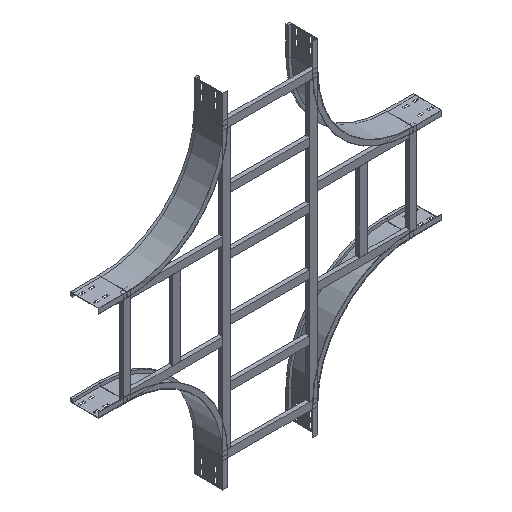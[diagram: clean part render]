
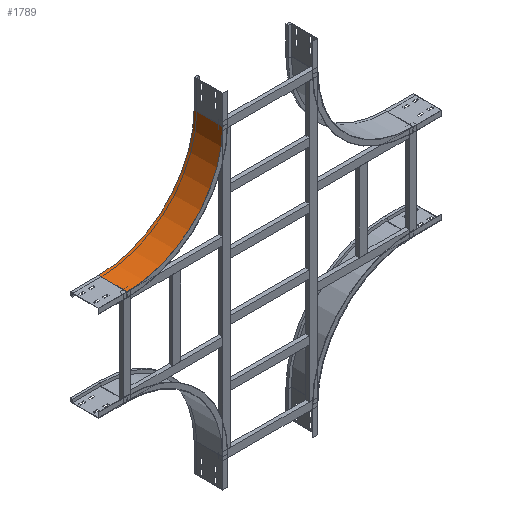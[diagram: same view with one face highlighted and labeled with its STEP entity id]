
A CAD part, isometric view. The second image highlights one B-rep face of the part: STEP entity #1789.
In plain terms, the highlighted cylindrical face has radius 500 mm (diameter 1000 mm), a partial arc.
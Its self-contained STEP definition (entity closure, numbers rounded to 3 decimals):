
#258 = CYLINDRICAL_SURFACE ( 'NONE', #1915, 500. ) ;
#288 = VECTOR ( 'NONE', #1224, 1000. ) ;
#307 = CARTESIAN_POINT ( 'NONE',  ( 500., 0., -650. ) ) ;
#331 = EDGE_CURVE ( 'NONE', #2090, #1062, #626, .T. ) ;
#449 = ORIENTED_EDGE ( 'NONE', *, *, #331, .F. ) ;
#580 = DIRECTION ( 'NONE',  ( -1., 0., 0. ) ) ;
#626 = CIRCLE ( 'NONE', #2748, 500. ) ;
#686 = EDGE_CURVE ( 'NONE', #1304, #1062, #2347, .T. ) ;
#779 = VERTEX_POINT ( 'NONE', #2879 ) ;
#795 = DIRECTION ( 'NONE',  ( -1., 0., 0. ) ) ;
#1062 = VERTEX_POINT ( 'NONE', #2357 ) ;
#1098 = CARTESIAN_POINT ( 'NONE',  ( 0., 150., -150. ) ) ;
#1224 = DIRECTION ( 'NONE',  ( 0., 1., 0. ) ) ;
#1269 = DIRECTION ( 'NONE',  ( 0., -1., 0. ) ) ;
#1279 = EDGE_CURVE ( 'NONE', #779, #2090, #2192, .T. ) ;
#1281 = ORIENTED_EDGE ( 'NONE', *, *, #1279, .F. ) ;
#1304 = VERTEX_POINT ( 'NONE', #1997 ) ;
#1391 = CARTESIAN_POINT ( 'NONE',  ( 500., 0., -150. ) ) ;
#1520 = DIRECTION ( 'NONE',  ( 0., -1., 0. ) ) ;
#1572 = DIRECTION ( 'NONE',  ( 0., -1., 0. ) ) ;
#1596 = ORIENTED_EDGE ( 'NONE', *, *, #686, .T. ) ;
#1636 = AXIS2_PLACEMENT_3D ( 'NONE', #2818, #1269, #795 ) ;
#1789 = ADVANCED_FACE ( 'NONE', ( #2684 ), #258, .F. ) ;
#1792 = DIRECTION ( 'NONE',  ( 0., 1., 0. ) ) ;
#1915 = AXIS2_PLACEMENT_3D ( 'NONE', #1391, #1572, #2474 ) ;
#1959 = CARTESIAN_POINT ( 'NONE',  ( 0., 0., -150. ) ) ;
#1997 = CARTESIAN_POINT ( 'NONE',  ( 500., 0., -650. ) ) ;
#2090 = VERTEX_POINT ( 'NONE', #1098 ) ;
#2192 = LINE ( 'NONE', #1959, #2312 ) ;
#2227 = EDGE_LOOP ( 'NONE', ( #449, #1281, #2389, #1596 ) ) ;
#2312 = VECTOR ( 'NONE', #1792, 1000. ) ;
#2347 = LINE ( 'NONE', #307, #288 ) ;
#2357 = CARTESIAN_POINT ( 'NONE',  ( 500., 150., -650. ) ) ;
#2382 = EDGE_CURVE ( 'NONE', #779, #1304, #2845, .T. ) ;
#2389 = ORIENTED_EDGE ( 'NONE', *, *, #2382, .T. ) ;
#2474 = DIRECTION ( 'NONE',  ( 0., 0., -1. ) ) ;
#2684 = FACE_OUTER_BOUND ( 'NONE', #2227, .T. ) ;
#2748 = AXIS2_PLACEMENT_3D ( 'NONE', #2842, #1520, #580 ) ;
#2818 = CARTESIAN_POINT ( 'NONE',  ( 500., 0., -150. ) ) ;
#2842 = CARTESIAN_POINT ( 'NONE',  ( 500., 150., -150. ) ) ;
#2845 = CIRCLE ( 'NONE', #1636, 500. ) ;
#2879 = CARTESIAN_POINT ( 'NONE',  ( 0., 0., -150. ) ) ;
